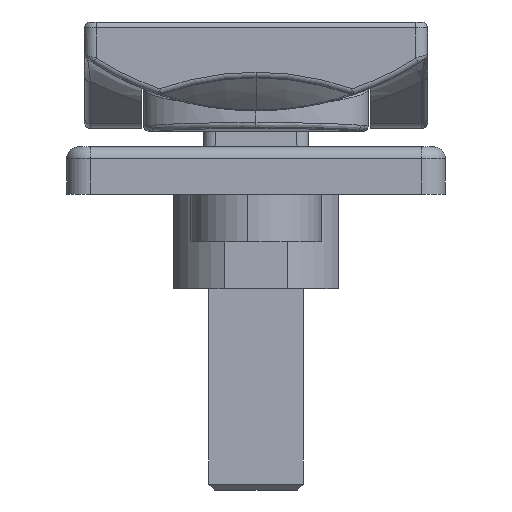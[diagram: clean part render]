
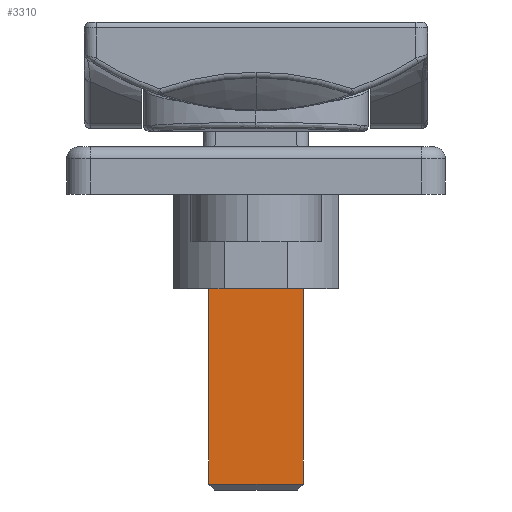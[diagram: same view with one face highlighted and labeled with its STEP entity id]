
A CAD part, front view. The second image highlights one B-rep face of the part: STEP entity #3310.
In plain terms, the highlighted planar face has unit normal (0, -1, 0) as drawn and (1, 0, 0) by its records, which use the part's own axes.
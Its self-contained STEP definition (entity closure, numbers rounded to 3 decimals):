
#275 = CARTESIAN_POINT ( 'NONE',  ( 4., 0., 6.25 ) ) ;
#413 = FACE_OUTER_BOUND ( 'NONE', #2098, .T. ) ;
#498 = VECTOR ( 'NONE', #5688, 1000. ) ;
#544 = EDGE_CURVE ( 'NONE', #7864, #4087, #2796, .T. ) ;
#572 = EDGE_CURVE ( 'NONE', #4693, #9833, #10344, .T. ) ;
#754 = DIRECTION ( 'NONE',  ( 1., 0., 0. ) ) ;
#969 = VECTOR ( 'NONE', #9263, 1000. ) ;
#1311 = AXIS2_PLACEMENT_3D ( 'NONE', #3851, #754, #9552 ) ;
#1854 = DIRECTION ( 'NONE',  ( 0., 0., -1. ) ) ;
#2098 = EDGE_LOOP ( 'NONE', ( #8676, #6142, #8360, #7297 ) ) ;
#2466 = CARTESIAN_POINT ( 'NONE',  ( 4., 4., 25. ) ) ;
#2474 = VERTEX_POINT ( 'NONE', #4544 ) ;
#2783 = LINE ( 'NONE', #4470, #4364 ) ;
#2796 = LINE ( 'NONE', #3643, #969 ) ;
#2996 = AXIS2_PLACEMENT_3D ( 'NONE', #3565, #8552, #6828 ) ;
#3009 = CARTESIAN_POINT ( 'NONE',  ( 4., 4., 0.5 ) ) ;
#3067 = EDGE_CURVE ( 'NONE', #2474, #7397, #2783, .T. ) ;
#3310 = ADVANCED_FACE ( 'NONE', ( #5310, #413 ), #3613, .F. ) ;
#3498 = VECTOR ( 'NONE', #1854, 1000. ) ;
#3523 = EDGE_LOOP ( 'NONE', ( #9397, #3598 ) ) ;
#3546 = DIRECTION ( 'NONE',  ( 0., 0., -1. ) ) ;
#3565 = CARTESIAN_POINT ( 'NONE',  ( 4., 4., 25. ) ) ;
#3593 = DIRECTION ( 'NONE',  ( 1., 0., 0. ) ) ;
#3598 = ORIENTED_EDGE ( 'NONE', *, *, #8839, .F. ) ;
#3613 = PLANE ( 'NONE',  #2996 ) ;
#3643 = CARTESIAN_POINT ( 'NONE',  ( 4., 4., 0.5 ) ) ;
#3851 = CARTESIAN_POINT ( 'NONE',  ( 4., 0., 4. ) ) ;
#4087 = VERTEX_POINT ( 'NONE', #3009 ) ;
#4111 = CARTESIAN_POINT ( 'NONE',  ( 4., -4., 25. ) ) ;
#4116 = EDGE_CURVE ( 'NONE', #2474, #4087, #9036, .T. ) ;
#4364 = VECTOR ( 'NONE', #5217, 1000. ) ;
#4470 = CARTESIAN_POINT ( 'NONE',  ( 4., -4., 24.5 ) ) ;
#4544 = CARTESIAN_POINT ( 'NONE',  ( 4., 4., 24.5 ) ) ;
#4693 = VERTEX_POINT ( 'NONE', #7811 ) ;
#5217 = DIRECTION ( 'NONE',  ( 0., -1., 0. ) ) ;
#5310 = FACE_BOUND ( 'NONE', #3523, .T. ) ;
#5336 = CARTESIAN_POINT ( 'NONE',  ( 4., 0., 4. ) ) ;
#5688 = DIRECTION ( 'NONE',  ( 0., 0., -1. ) ) ;
#6142 = ORIENTED_EDGE ( 'NONE', *, *, #544, .T. ) ;
#6828 = DIRECTION ( 'NONE',  ( 0., -1., 0. ) ) ;
#7297 = ORIENTED_EDGE ( 'NONE', *, *, #3067, .T. ) ;
#7397 = VERTEX_POINT ( 'NONE', #8743 ) ;
#7674 = CIRCLE ( 'NONE', #1311, 2.25 ) ;
#7811 = CARTESIAN_POINT ( 'NONE',  ( 4., 0., 1.75 ) ) ;
#7864 = VERTEX_POINT ( 'NONE', #9013 ) ;
#8360 = ORIENTED_EDGE ( 'NONE', *, *, #4116, .F. ) ;
#8552 = DIRECTION ( 'NONE',  ( -1., 0., 0. ) ) ;
#8676 = ORIENTED_EDGE ( 'NONE', *, *, #9791, .T. ) ;
#8743 = CARTESIAN_POINT ( 'NONE',  ( 4., -4., 24.5 ) ) ;
#8837 = AXIS2_PLACEMENT_3D ( 'NONE', #5336, #3593, #3546 ) ;
#8839 = EDGE_CURVE ( 'NONE', #9833, #4693, #7674, .T. ) ;
#8888 = LINE ( 'NONE', #4111, #3498 ) ;
#9013 = CARTESIAN_POINT ( 'NONE',  ( 4., -4., 0.5 ) ) ;
#9036 = LINE ( 'NONE', #2466, #498 ) ;
#9263 = DIRECTION ( 'NONE',  ( 0., 1., 0. ) ) ;
#9397 = ORIENTED_EDGE ( 'NONE', *, *, #572, .F. ) ;
#9552 = DIRECTION ( 'NONE',  ( 0., 0., -1. ) ) ;
#9791 = EDGE_CURVE ( 'NONE', #7397, #7864, #8888, .T. ) ;
#9833 = VERTEX_POINT ( 'NONE', #275 ) ;
#10344 = CIRCLE ( 'NONE', #8837, 2.25 ) ;
